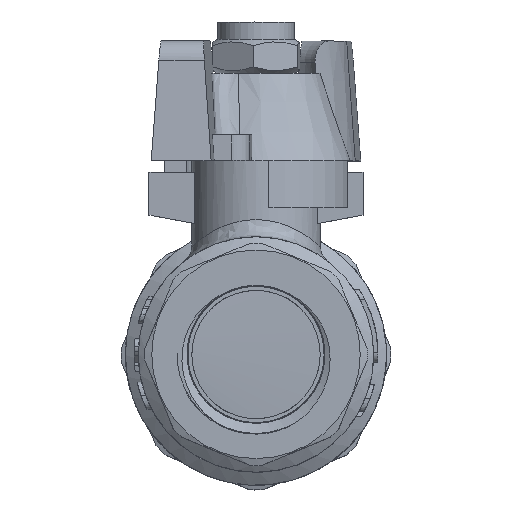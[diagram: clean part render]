
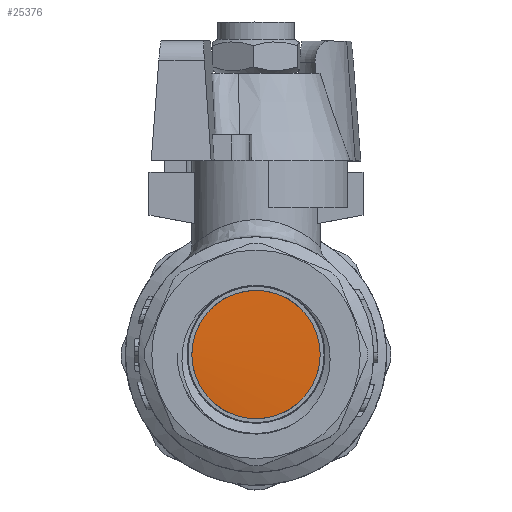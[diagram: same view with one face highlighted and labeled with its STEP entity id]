
A CAD part, top view. The second image highlights one B-rep face of the part: STEP entity #25376.
In plain terms, the highlighted cylindrical face has radius 13.284 mm (diameter 26.568 mm), a full revolution.
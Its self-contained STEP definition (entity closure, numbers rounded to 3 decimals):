
#2996=FACE_OUTER_BOUND('',#4494,.T.);
#4494=EDGE_LOOP('',(#20496,#20497,#20498));
#5878=B_SPLINE_CURVE_WITH_KNOTS('',3,(#60567,#60568,#60569,#60570,#60571,
#60572,#60573,#60574,#60575,#60576,#60577,#60578,#60579,#60580,#60581,#60582,
#60583),.UNSPECIFIED.,.F.,.F.,(4,1,1,1,1,1,1,1,1,1,1,1,1,1,4),(1.571,
1.97,2.456,2.942,3.428,3.914,
4.4,4.886,5.372,5.858,6.344,
6.829,7.315,7.801,7.854),
 .UNSPECIFIED.);
#7854=LINE('',#60195,#9188);
#7863=LINE('',#60566,#9197);
#9188=VECTOR('',#30851,13.284);
#9197=VECTOR('',#30886,13.284);
#11049=VERTEX_POINT('',#60193);
#11050=VERTEX_POINT('',#60194);
#11070=VERTEX_POINT('',#60565);
#14404=EDGE_CURVE('',#11049,#11050,#7854,.T.);
#14432=EDGE_CURVE('',#11070,#11050,#7863,.T.);
#14433=EDGE_CURVE('',#11070,#11049,#5878,.T.);
#20496=ORIENTED_EDGE('',*,*,#14404,.T.);
#20497=ORIENTED_EDGE('',*,*,#14432,.F.);
#20498=ORIENTED_EDGE('',*,*,#14433,.T.);
#24456=CYLINDRICAL_SURFACE('',#27264,13.284);
#25376=ADVANCED_FACE('',(#2996),#24456,.T.);
#27264=AXIS2_PLACEMENT_3D('',#60564,#30884,#30885);
#30851=DIRECTION('',(0.,0.,1.));
#30884=DIRECTION('center_axis',(0.,0.,1.));
#30885=DIRECTION('ref_axis',(1.,0.,0.));
#30886=DIRECTION('',(0.,0.,-1.));
#60193=CARTESIAN_POINT('',(-13.284,0.,7.738));
#60194=CARTESIAN_POINT('',(-13.284,0.,9.537));
#60195=CARTESIAN_POINT('',(-13.284,0.,0.));
#60564=CARTESIAN_POINT('Origin',(0.,0.,0.));
#60565=CARTESIAN_POINT('',(-13.284,0.,9.554));
#60566=CARTESIAN_POINT('',(-13.284,0.,0.));
#60567=CARTESIAN_POINT('Ctrl Pts',(-13.284,0.,
9.554));
#60568=CARTESIAN_POINT('Ctrl Pts',(-13.283,1.768,9.515));
#60569=CARTESIAN_POINT('Ctrl Pts',(-12.494,5.69,9.43));
#60570=CARTESIAN_POINT('Ctrl Pts',(-8.747,10.697,9.298));
#60571=CARTESIAN_POINT('Ctrl Pts',(-2.738,13.544,9.157));
#60572=CARTESIAN_POINT('Ctrl Pts',(3.904,13.255,9.017));
#60573=CARTESIAN_POINT('Ctrl Pts',(9.643,9.898,8.876));
#60574=CARTESIAN_POINT('Ctrl Pts',(13.149,4.249,8.736));
#60575=CARTESIAN_POINT('Ctrl Pts',(13.611,-2.384,8.596));
#60576=CARTESIAN_POINT('Ctrl Pts',(10.922,-8.464,8.455));
#60577=CARTESIAN_POINT('Ctrl Pts',(5.705,-12.586,8.315));
#60578=CARTESIAN_POINT('Ctrl Pts',(-0.833,-13.793,
8.174));
#60579=CARTESIAN_POINT('Ctrl Pts',(-7.178,-11.807,
8.034));
#60580=CARTESIAN_POINT('Ctrl Pts',(-11.862,-7.088,
7.893));
#60581=CARTESIAN_POINT('Ctrl Pts',(-13.223,-2.618,
7.795));
#60582=CARTESIAN_POINT('Ctrl Pts',(-13.285,-0.234,
7.743));
#60583=CARTESIAN_POINT('Ctrl Pts',(-13.285,0.,
7.738));
